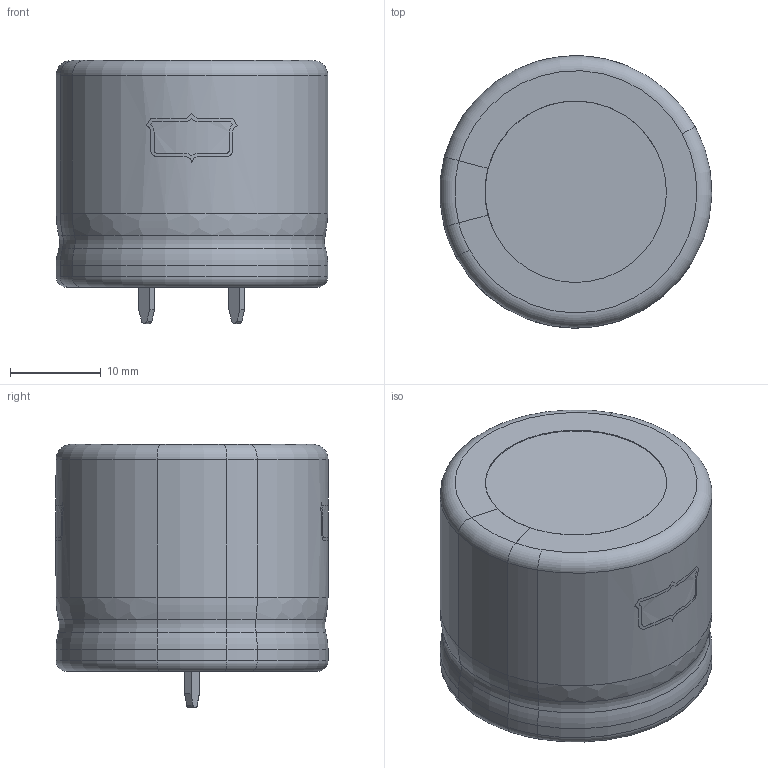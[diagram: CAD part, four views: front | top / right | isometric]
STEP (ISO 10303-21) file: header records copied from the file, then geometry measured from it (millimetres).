
FILE_DESCRIPTION(('CATIA V5 STEP Exchange','CAx-IF Rec.Pracs.--- Model Styling and Organization---1.4--- 2014-01-23','CAx-IF Rec.Pracs.---3D Tessellated Data Validation Properties---0.5---2014-09-14'),'2;1');
FILE_NAME('C:\temp\E-SNAP-IN_D30_L25__VSN_SLEEVE_STRUCTURE.stp','2021-01-15T06:04:37+00:00',('none'),('none'),'CATIA Version 5-6 Release 2016 SP6','CATIA V5 STEP AP242','none');
FILE_SCHEMA(('AP242_MANAGED_MODEL_BASED_3D_ENGINEERING_MIM_LF {1 0 10303 442 1 1 4}'));
Length unit declared in the file: millimetre
Products named in the file (4): E-SNAP-IN_D30_L25__VSN_SLEEVE_STRUCTURE; E-SNAP-IN_D30_L25_ELEMENT; E-SNAP-IN_VS_TERMINAL-; E-SNAP-IN_VS_TERMINAL+
Assembly tree (3 placements, depth 2):
  E-SNAP-IN_D30_L25__VSN_SLEEVE_STRUCTURE
    E-SNAP-IN_D30_L25_ELEMENT
    E-SNAP-IN_VS_TERMINAL-
    E-SNAP-IN_VS_TERMINAL+
Bounding box: 29.93 x 30 x 29 mm (x, y, z)
Volume: 16834 mm3; surface area: 4425.6 mm2
Topology: 3 solids, 3 shells, 291 faces, 768 edges, 504 vertices
Faces by surface type: plane 181, cylinder 82, torus 20, bspline 8
Entity records: 9299 total; most frequent: CARTESIAN_POINT 2680, ORIENTED_EDGE 1536, DIRECTION 961, EDGE_CURVE 768, VERTEX_POINT 504, VECTOR 380, LINE 380, AXIS2_PLACEMENT_3D 370
